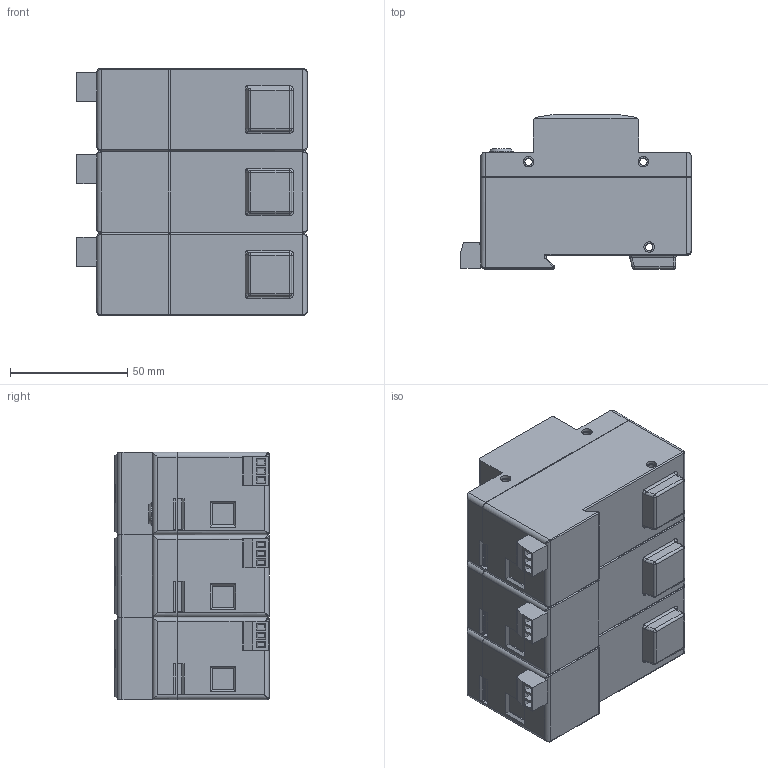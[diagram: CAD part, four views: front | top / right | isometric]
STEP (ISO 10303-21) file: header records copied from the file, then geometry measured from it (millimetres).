
FILE_DESCRIPTION(/* description */ (''),/* implementation_level */ '2;1');
FILE_NAME(/* name */ 'K:\PROJEKTY ROZPRACOVANÉ\MODELY DO KATALOGU\HLSA25, HLSA25G, HLA\3D - STEP\H25 3+0 S.stp',/* time_stamp */ '2020-03-24T07:21:33+01:00',/* author */ ('M Koliska'),/* organization */ (''),/* preprocessor_version */ 'ST-DEVELOPER v18',/* originating_system */ 'Autodesk Inventor 2020',/* authorisation */ '');
FILE_SCHEMA (('AUTOMOTIVE_DESIGN { 1 0 10303 214 3 1 1 }'));
Length unit declared in the file: millimetre
Products named in the file (10): HLSA25_3+0 S; HLSA25 S; HLSA25 S_1; HLSA25 S (Z); HLSA25 S (Z)_1; DIN 7985 (H) - M6x10-H; KONEKTOR DEGSON 15EDGK 3.81; KONEKTOR SAMEC; ISO 2009 - M1,6 x 2,5; KONEKTOR DEGSON 15EDGRC 3.81
Assembly tree (18 placements, depth 4):
  HLSA25_3+0 S
    HLSA25 S  x2
      HLSA25 S_1
      DIN 7985 (H) - M6x10-H
      KONEKTOR DEGSON 15EDGK 3.81
        KONEKTOR SAMEC
        ISO 2009 - M1,6 x 2,5  x3
      KONEKTOR DEGSON 15EDGRC 3.81
    HLSA25 S (Z)
      HLSA25 S (Z)_1
      DIN 7985 (H) - M6x10-H  x2
      KONEKTOR DEGSON 15EDGK 3.81
        KONEKTOR SAMEC
        ISO 2009 - M1,6 x 2,5  x3
      KONEKTOR DEGSON 15EDGRC 3.81
Bounding box: 98.5 x 65.8 x 105.6 mm (x, y, z)
Volume: 514672.4 mm3; surface area: 81523.4 mm2
Topology: 26 solids, 26 shells, 1672 faces, 4240 edges, 2766 vertices
Faces by surface type: plane 1151, cylinder 280, cone 165, torus 32, sphere 26, bspline 18
Full cylindrical faces by diameter (mm): 0.968 x9, 1 x18, 1.171 x9, 1.6 x9, 1.9 x9, 2 x9, 2.5 x9, 3.2 x9, 4.5 x18, 5.5 x8, 6 x8, 7.5 x8, 10 x1
Entity records: 20893 total; most frequent: CARTESIAN_POINT 3925, DIRECTION 3439, ORIENTED_EDGE 3396, EDGE_CURVE 1698, LINE 1297, VECTOR 1297, VERTEX_POINT 1097, AXIS2_PLACEMENT_3D 1071
